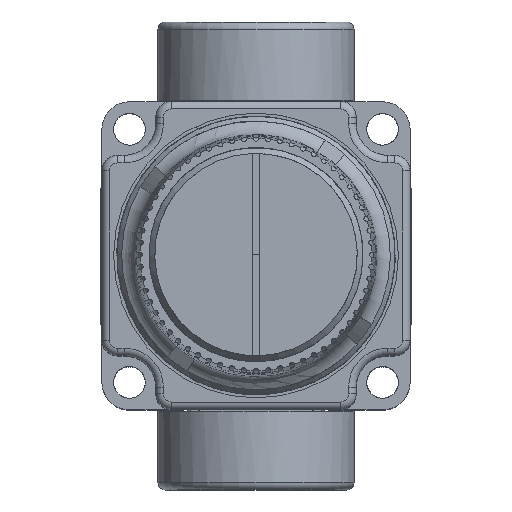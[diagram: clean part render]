
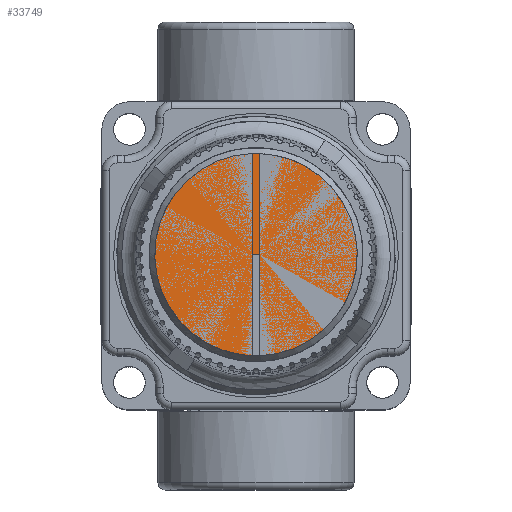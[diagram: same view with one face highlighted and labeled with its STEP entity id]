
A CAD part, top view. The second image highlights one B-rep face of the part: STEP entity #33749.
In plain terms, the highlighted planar face has unit normal (0, 0, 1).
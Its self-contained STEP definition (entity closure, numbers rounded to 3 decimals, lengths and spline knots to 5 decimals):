
#814=PLANE('',#36309);
#2541=FACE_OUTER_BOUND('',#4489,.T.);
#4489=EDGE_LOOP('',(#23711,#23712,#23713,#23714,#23715));
#6740=CIRCLE('',#36310,0.4);
#6741=CIRCLE('',#36311,0.4);
#8632=LINE('',#56215,#11064);
#8633=LINE('',#56221,#11065);
#8634=LINE('',#56222,#11066);
#11064=VECTOR('',#42261,0.3937);
#11065=VECTOR('',#42266,0.3937);
#11066=VECTOR('',#42267,0.3937);
#13682=VERTEX_POINT('',#56213);
#13683=VERTEX_POINT('',#56214);
#13684=VERTEX_POINT('',#56216);
#13685=VERTEX_POINT('',#56218);
#13686=VERTEX_POINT('',#56220);
#17360=EDGE_CURVE('',#13682,#13683,#8632,.T.);
#17361=EDGE_CURVE('',#13683,#13684,#6740,.T.);
#17362=EDGE_CURVE('',#13684,#13685,#6741,.T.);
#17363=EDGE_CURVE('',#13685,#13686,#8633,.T.);
#17364=EDGE_CURVE('',#13686,#13682,#8634,.T.);
#23711=ORIENTED_EDGE('',*,*,#17360,.T.);
#23712=ORIENTED_EDGE('',*,*,#17361,.T.);
#23713=ORIENTED_EDGE('',*,*,#17362,.T.);
#23714=ORIENTED_EDGE('',*,*,#17363,.T.);
#23715=ORIENTED_EDGE('',*,*,#17364,.T.);
#33749=ADVANCED_FACE('',(#2541),#814,.T.);
#36309=AXIS2_PLACEMENT_3D('',#56212,#42259,#42260);
#36310=AXIS2_PLACEMENT_3D('',#56217,#42262,#42263);
#36311=AXIS2_PLACEMENT_3D('',#56219,#42264,#42265);
#42259=DIRECTION('center_axis',(0.,0.,
1.));
#42260=DIRECTION('ref_axis',(1.,0.,0.));
#42261=DIRECTION('',(0.,-1.,0.));
#42262=DIRECTION('center_axis',(0.,0.,
1.));
#42263=DIRECTION('ref_axis',(0.285,-0.958,0.));
#42264=DIRECTION('center_axis',(0.,0.,
1.));
#42265=DIRECTION('ref_axis',(0.285,-0.958,0.));
#42266=DIRECTION('',(0.,1.,0.));
#42267=DIRECTION('',(1.,0.,0.));
#56212=CARTESIAN_POINT('Origin',(0.0816,-0.26028,
4.69034));
#56213=CARTESIAN_POINT('',(0.0966,0.13983,4.69034));
#56214=CARTESIAN_POINT('',(0.0966,-0.25988,4.69034));
#56215=CARTESIAN_POINT('',(0.0966,0.13983,4.69034));
#56216=CARTESIAN_POINT('',(-0.23409,0.38547,4.69034));
#56217=CARTESIAN_POINT('Origin',(0.0816,0.13983,4.69034));
#56218=CARTESIAN_POINT('',(0.0666,-0.25988,4.69034));
#56219=CARTESIAN_POINT('Origin',(0.0816,0.13983,4.69034));
#56220=CARTESIAN_POINT('',(0.0666,0.13983,4.69034));
#56221=CARTESIAN_POINT('',(0.0666,-0.25988,4.69034));
#56222=CARTESIAN_POINT('',(0.0666,0.13983,4.69034));
